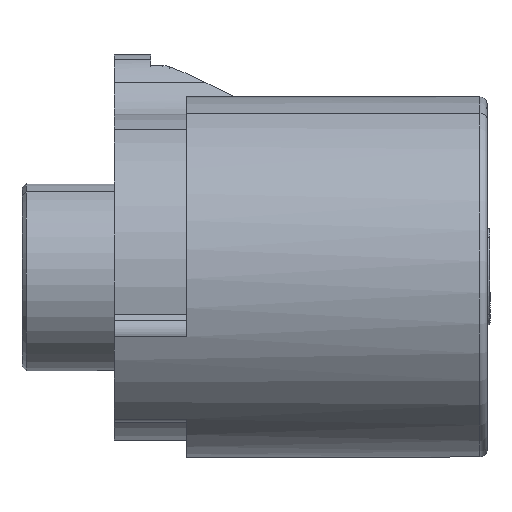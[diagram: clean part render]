
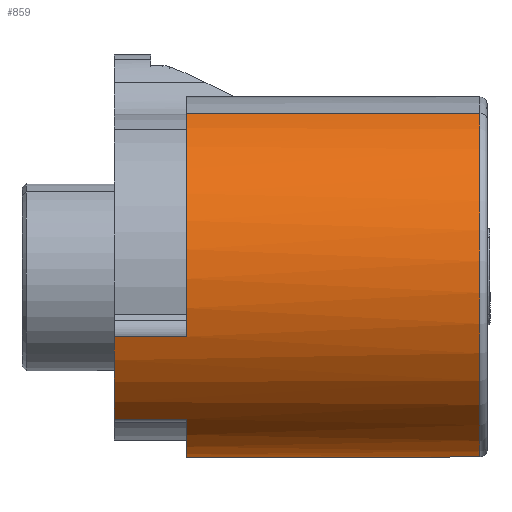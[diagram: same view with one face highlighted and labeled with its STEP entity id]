
A CAD part, front view. The second image highlights one B-rep face of the part: STEP entity #859.
In plain terms, the highlighted cylindrical face has radius 12.5 mm (diameter 25 mm), a partial arc.
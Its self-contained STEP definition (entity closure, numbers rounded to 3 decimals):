
#23 = CARTESIAN_POINT ( 'NONE',  ( -12.5, 0., 0. ) ) ;
#32 = CARTESIAN_POINT ( 'NONE',  ( 0., 0., 0.8 ) ) ;
#88 = ORIENTED_EDGE ( 'NONE', *, *, #875, .F. ) ;
#357 = DIRECTION ( 'NONE',  ( 0., 0., 1. ) ) ;
#443 = EDGE_CURVE ( 'NONE', #4696, #4392, #1466, .T. ) ;
#492 = EDGE_CURVE ( 'NONE', #2723, #872, #2326, .T. ) ;
#541 = ORIENTED_EDGE ( 'NONE', *, *, #4745, .T. ) ;
#580 = DIRECTION ( 'NONE',  ( 0., 0., 1. ) ) ;
#639 = AXIS2_PLACEMENT_3D ( 'NONE', #1436, #4042, #1811 ) ;
#721 = AXIS2_PLACEMENT_3D ( 'NONE', #799, #3380, #1174 ) ;
#739 = DIRECTION ( 'NONE',  ( 0., 0., 1. ) ) ;
#799 = CARTESIAN_POINT ( 'NONE',  ( 0., 0., -19.5 ) ) ;
#859 = ADVANCED_FACE ( 'NONE', ( #4515 ), #2562, .T. ) ;
#872 = VERTEX_POINT ( 'NONE', #4713 ) ;
#875 = EDGE_CURVE ( 'NONE', #872, #4696, #4632, .T. ) ;
#1029 = LINE ( 'NONE', #23, #2878 ) ;
#1065 = ORIENTED_EDGE ( 'NONE', *, *, #3366, .F. ) ;
#1174 = DIRECTION ( 'NONE',  ( 1., 0., 0. ) ) ;
#1334 = CARTESIAN_POINT ( 'NONE',  ( 1.248, -12.438, -500000. ) ) ;
#1436 = CARTESIAN_POINT ( 'NONE',  ( 0., 0., 0.8 ) ) ;
#1466 = CIRCLE ( 'NONE', #3099, 12.5 ) ;
#1476 = ORIENTED_EDGE ( 'NONE', *, *, #2629, .T. ) ;
#1509 = CIRCLE ( 'NONE', #721, 12.5 ) ;
#1571 = VECTOR ( 'NONE', #2832, 1000. ) ;
#1675 = CARTESIAN_POINT ( 'NONE',  ( 1.248, -12.438, 0.8 ) ) ;
#1686 = CARTESIAN_POINT ( 'NONE',  ( -5.654, -11.148, 5.8 ) ) ;
#1811 = DIRECTION ( 'NONE',  ( 1., 0., 0. ) ) ;
#1818 = CARTESIAN_POINT ( 'NONE',  ( 0., 0., 5.8 ) ) ;
#1840 = EDGE_CURVE ( 'NONE', #4514, #2122, #1509, .T. ) ;
#1921 = ORIENTED_EDGE ( 'NONE', *, *, #3975, .F. ) ;
#2122 = VERTEX_POINT ( 'NONE', #4317 ) ;
#2233 = DIRECTION ( 'NONE',  ( 0., 0., 1. ) ) ;
#2326 = CIRCLE ( 'NONE', #4335, 12.5 ) ;
#2338 = VECTOR ( 'NONE', #4295, 1000. ) ;
#2410 = CARTESIAN_POINT ( 'NONE',  ( 12.5, 0., 0. ) ) ;
#2562 = CYLINDRICAL_SURFACE ( 'NONE', #4160, 12.5 ) ;
#2629 = EDGE_CURVE ( 'NONE', #2122, #3105, #4498, .T. ) ;
#2723 = VERTEX_POINT ( 'NONE', #3234 ) ;
#2774 = ORIENTED_EDGE ( 'NONE', *, *, #492, .F. ) ;
#2832 = DIRECTION ( 'NONE',  ( 0., 0., 1. ) ) ;
#2878 = VECTOR ( 'NONE', #2233, 1000. ) ;
#2989 = DIRECTION ( 'NONE',  ( 1., 0., 0. ) ) ;
#3099 = AXIS2_PLACEMENT_3D ( 'NONE', #1818, #739, #4268 ) ;
#3105 = VERTEX_POINT ( 'NONE', #3457 ) ;
#3185 = VERTEX_POINT ( 'NONE', #1675 ) ;
#3234 = CARTESIAN_POINT ( 'NONE',  ( -12.5, 0., 0.8 ) ) ;
#3331 = LINE ( 'NONE', #1334, #2338 ) ;
#3337 = ORIENTED_EDGE ( 'NONE', *, *, #443, .F. ) ;
#3366 = EDGE_CURVE ( 'NONE', #3185, #3105, #3755, .T. ) ;
#3380 = DIRECTION ( 'NONE',  ( 0., 0., 1. ) ) ;
#3410 = VECTOR ( 'NONE', #580, 1000. ) ;
#3457 = CARTESIAN_POINT ( 'NONE',  ( 12.5, 0., 0.8 ) ) ;
#3755 = CIRCLE ( 'NONE', #639, 12.5 ) ;
#3975 = EDGE_CURVE ( 'NONE', #4514, #2723, #1029, .T. ) ;
#3978 = ORIENTED_EDGE ( 'NONE', *, *, #1840, .T. ) ;
#4042 = DIRECTION ( 'NONE',  ( 0., 0., 1. ) ) ;
#4052 = CARTESIAN_POINT ( 'NONE',  ( 1.248, -12.438, 5.8 ) ) ;
#4105 = CARTESIAN_POINT ( 'NONE',  ( -5.654, -11.148, -500000. ) ) ;
#4160 = AXIS2_PLACEMENT_3D ( 'NONE', #4784, #4755, #2989 ) ;
#4268 = DIRECTION ( 'NONE',  ( 1., 0., 0. ) ) ;
#4282 = DIRECTION ( 'NONE',  ( 1., 0., 0. ) ) ;
#4295 = DIRECTION ( 'NONE',  ( 0., 0., 1. ) ) ;
#4317 = CARTESIAN_POINT ( 'NONE',  ( 12.5, 0., -19.5 ) ) ;
#4335 = AXIS2_PLACEMENT_3D ( 'NONE', #32, #357, #4282 ) ;
#4392 = VERTEX_POINT ( 'NONE', #4052 ) ;
#4464 = EDGE_LOOP ( 'NONE', ( #1921, #3978, #1476, #1065, #541, #3337, #88, #2774 ) ) ;
#4497 = CARTESIAN_POINT ( 'NONE',  ( -12.5, 0., -19.5 ) ) ;
#4498 = LINE ( 'NONE', #2410, #3410 ) ;
#4514 = VERTEX_POINT ( 'NONE', #4497 ) ;
#4515 = FACE_OUTER_BOUND ( 'NONE', #4464, .T. ) ;
#4632 = LINE ( 'NONE', #4105, #1571 ) ;
#4696 = VERTEX_POINT ( 'NONE', #1686 ) ;
#4713 = CARTESIAN_POINT ( 'NONE',  ( -5.654, -11.148, 0.8 ) ) ;
#4745 = EDGE_CURVE ( 'NONE', #3185, #4392, #3331, .T. ) ;
#4755 = DIRECTION ( 'NONE',  ( 0., 0., 1. ) ) ;
#4784 = CARTESIAN_POINT ( 'NONE',  ( 0., 0., 0. ) ) ;
